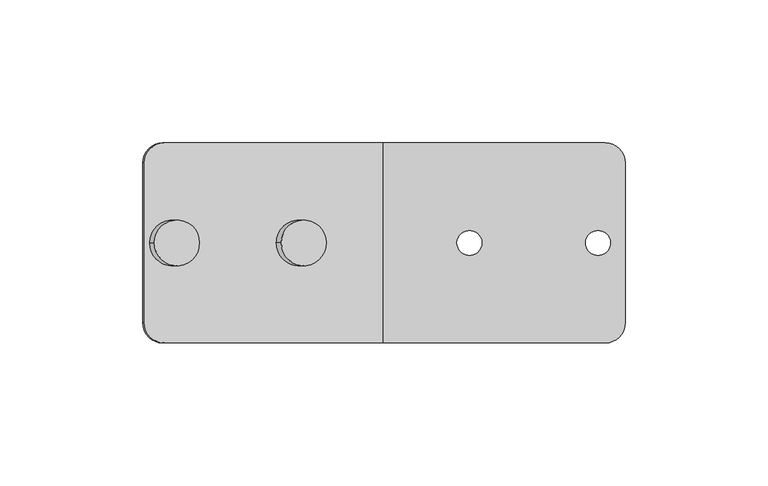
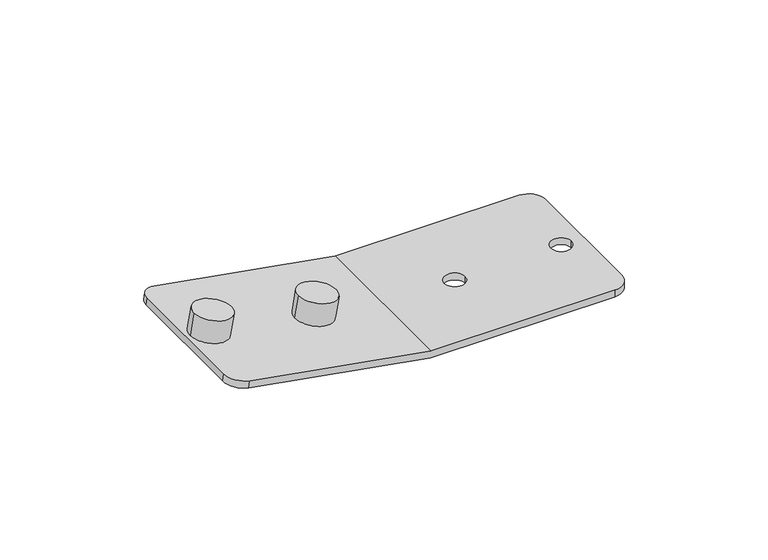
"""IFC4 building model written with IfcOpenShell, lengths in millimetres: proxy geometry, d&b xS-Series 44S Cluster Bracket : 44S Cluster Bracket."""

from ifc_helpers import new_model, si_unit, point, frame, frame_2d, origin, place, context, project, spatial, polyline, circle_curve, trimmed, segment, composite_curve, outline, extrude, source, transform, mapped, element, save
from ifc_brep_helpers import plane_surface, cylinder_surface, revolved_surface, advanced_brep


def communication_devices_e0120213(model_context):
    return source(origin(), model_context, "Body", "SolidModel", [
        extrude(outline(composite_curve([segment(trimmed(circle_curve(frame_2d((0.0, -8.0)), 8.0), [point((0.0, -16.0))], [point((0.0, 0.0))], False, "CARTESIAN"), True, "CONTINUOUS"), segment(trimmed(circle_curve(frame_2d((0.0, -8.0)), 8.0), [point((0.0, 0.0))], [point((0.0, -16.0))], False, "CARTESIAN"), True, "CONTINUOUS")], self_intersect=False)), frame((-118.6256897, 0.0, 14.6125754), z_axis=(0.17364817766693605, 0.0, 0.9848077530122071), x_axis=(0.0, -1.0, 0.0)), (0.0, 0.0, 1.0), 9.6),
        extrude(outline(composite_curve([segment(trimmed(circle_curve(frame_2d((0.0, 37.0120911)), 8.0), [point((0.0, 45.0120912))], [point((0.0, 29.0120911))], False, "CARTESIAN"), True, "CONTINUOUS"), segment(trimmed(circle_curve(frame_2d((0.0, 37.0120911)), 8.0), [point((0.0, 29.0120911))], [point((0.0, 45.0120912))], False, "CARTESIAN"), True, "CONTINUOUS")], self_intersect=False)), frame((-118.6256897, 0.0, 14.6125754), z_axis=(0.17364817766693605, 0.0, 0.9848077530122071), x_axis=(0.0, -1.0, 0.0)), (0.0, 0.0, 1.0), 9.6),
        advanced_brep(
        [(-129.8641799, -35.0, 13.5479446), (-136.7578342, -28.0, 14.7634819), (-136.7578342, 28.0, 14.7634819), (-129.8641799, 35.0, 13.5479446), (-53.0299678, 35.0, 0.0), (-53.0299678, -35.0, 0.0), (-78.413601, 0.0, 4.4758194), (-86.9800787, 0.0, 5.9863206), (-131.3083351, 0.0, 13.8025882), (-122.7418574, 0.0, 12.292087), (-129.3432354, 35.0, 16.5023679), (-136.2368896, 28.0, 17.7179051), (-136.2368896, -28.0, 17.7179051), (-129.3432354, -35.0, 16.5023679), (-52.7675018, -35.0, 3.0), (-52.7675018, 35.0, 3.0), (-77.8926565, 0.0, 7.4302427), (-86.4591342, 0.0, 8.9407438), (-130.7873905, 0.0, 16.7570114), (-122.2209128, 0.0, 15.2465103), (24.9895359, -35.0, 0.0), (24.9895359, -35.0, 3.0), (24.9895359, 35.0, 3.0), (24.9895359, 35.0, 0.0), (31.9895359, 28.0, 0.0), (31.9895359, -28.0, 0.0), (-26.8553603, 0.0, 0.0), (-18.1567308, 0.0, 0.0), (26.8553603, 0.0, 0.0), (18.1567308, 0.0, 0.0), (31.9895359, -28.0, 3.0), (31.9895359, 28.0, 3.0), (-26.8553603, 0.0, 3.0), (-18.1567308, 0.0, 3.0), (26.8553603, 0.0, 3.0), (18.1567308, 0.0, 3.0)],
        [
            (0, 1, circle_curve(frame((-129.8641799, -28.0, 13.5479446), z_axis=(-0.17364817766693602, 0.0, -0.984807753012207), x_axis=(0.968958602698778, -0.1786848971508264, -0.17085354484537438)), 7.0)),
            (1, 2),
            (2, 3, circle_curve(frame((-129.8641799, 28.0, 13.5479446), z_axis=(-0.17364817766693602, 0.0, -0.984807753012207), x_axis=(0.968958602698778, -0.1786848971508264, -0.17085354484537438)), 7.0)),
            (3, 4),
            (4, 5),
            (5, 0),
            (6, 7, circle_curve(frame((-82.6968399, 0.0, 5.23107), z_axis=(0.17364817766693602, 0.0, 0.9848077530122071), x_axis=(-0.9848077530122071, 0.0, 0.17364817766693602)), 4.3493147)),
            (7, 6, circle_curve(frame((-82.6968399, 0.0, 5.23107), z_axis=(0.17364817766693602, 0.0, 0.9848077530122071), x_axis=(-0.9848077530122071, 0.0, 0.17364817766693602)), 4.3493147)),
            (8, 9, circle_curve(frame((-127.0250962, 0.0, 13.0473376), z_axis=(0.1736481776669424, 0.0, 0.984807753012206), x_axis=(0.984807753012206, 0.0, -0.1736481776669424)), 4.3493147)),
            (9, 8, circle_curve(frame((-127.0250962, 0.0, 13.0473376), z_axis=(0.1736481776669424, 0.0, 0.984807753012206), x_axis=(0.984807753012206, 0.0, -0.1736481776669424)), 4.3493147)),
            (10, 11, circle_curve(frame((-129.3432354, 28.0, 16.5023679), z_axis=(0.17364817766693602, 0.0, 0.984807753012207), x_axis=(0.968958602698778, -0.1786848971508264, -0.17085354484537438)), 7.0)),
            (11, 12),
            (12, 13, circle_curve(frame((-129.3432354, -28.0, 16.5023679), z_axis=(0.17364817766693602, 0.0, 0.984807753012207), x_axis=(0.968958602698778, -0.1786848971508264, -0.17085354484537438)), 7.0)),
            (13, 14),
            (14, 15),
            (15, 10),
            (16, 17, circle_curve(frame((-82.1758954, 0.0, 8.1854932), z_axis=(-0.17364817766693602, 0.0, -0.9848077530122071), x_axis=(-0.9848077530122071, 0.0, 0.17364817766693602)), 4.3493147)),
            (17, 16, circle_curve(frame((-82.1758954, 0.0, 8.1854932), z_axis=(-0.17364817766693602, 0.0, -0.9848077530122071), x_axis=(-0.9848077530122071, 0.0, 0.17364817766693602)), 4.3493147)),
            (18, 19, circle_curve(frame((-126.5041517, 0.0, 16.0017608), z_axis=(-0.1736481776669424, 0.0, -0.984807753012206), x_axis=(0.984807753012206, 0.0, -0.1736481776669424)), 4.3493147)),
            (19, 18, circle_curve(frame((-126.5041517, 0.0, 16.0017608), z_axis=(-0.1736481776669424, 0.0, -0.984807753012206), x_axis=(0.984807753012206, 0.0, -0.1736481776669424)), 4.3493147)),
            (13, 0),
            (5, 20),
            (20, 21),
            (21, 14),
            (12, 1),
            (11, 2),
            (10, 3),
            (15, 22),
            (22, 23),
            (23, 4),
            (6, 16),
            (17, 7),
            (8, 18),
            (19, 9),
            (23, 24, circle_curve(frame((24.9895359, 28.0, 0.0), z_axis=(0.0, 0.0, -1.0), x_axis=(-1.0, 0.0, 0.0)), 7.0)),
            (24, 25),
            (25, 20, circle_curve(frame((24.9895359, -28.0, 0.0), z_axis=(0.0, 0.0, -1.0), x_axis=(-1.0, 0.0, 0.0)), 7.0)),
            (26, 27, circle_curve(frame((-22.5060456, 0.0, 0.0), z_axis=(0.0, 0.0, 1.0), x_axis=(1.0, 0.0, 0.0)), 4.3493147)),
            (27, 26, circle_curve(frame((-22.5060456, 0.0, 0.0), z_axis=(0.0, 0.0, 1.0), x_axis=(1.0, 0.0, 0.0)), 4.3493147)),
            (28, 29, circle_curve(frame((22.5060456, 0.0, 0.0), z_axis=(0.0, 0.0, 1.0), x_axis=(-1.0, 0.0, 0.0)), 4.3493147)),
            (29, 28, circle_curve(frame((22.5060456, 0.0, 0.0), z_axis=(0.0, 0.0, 1.0), x_axis=(-1.0, 0.0, 0.0)), 4.3493147)),
            (21, 30, circle_curve(frame((24.9895359, -28.0, 3.0), z_axis=(0.0, 0.0, 1.0), x_axis=(-1.0, 0.0, 0.0)), 7.0)),
            (30, 31),
            (31, 22, circle_curve(frame((24.9895359, 28.0, 3.0), z_axis=(0.0, 0.0, 1.0), x_axis=(-1.0, 0.0, 0.0)), 7.0)),
            (32, 33, circle_curve(frame((-22.5060456, 0.0, 3.0), z_axis=(0.0, 0.0, -1.0), x_axis=(1.0, 0.0, 0.0)), 4.3493147)),
            (33, 32, circle_curve(frame((-22.5060456, 0.0, 3.0), z_axis=(0.0, 0.0, -1.0), x_axis=(1.0, 0.0, 0.0)), 4.3493147)),
            (34, 35, circle_curve(frame((22.5060456, 0.0, 3.0), z_axis=(0.0, 0.0, -1.0), x_axis=(-1.0, 0.0, 0.0)), 4.3493147)),
            (35, 34, circle_curve(frame((22.5060456, 0.0, 3.0), z_axis=(0.0, 0.0, -1.0), x_axis=(-1.0, 0.0, 0.0)), 4.3493147)),
            (32, 26),
            (27, 33),
            (34, 28),
            (29, 35),
            (25, 30),
            (24, 31),
        ],
        [
            plane_surface(frame((-129.8641799, -35.0, 13.5479446), z_axis=(-0.17364817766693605, 0.0, -0.9848077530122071), x_axis=(-0.9848077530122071, 0.0, 0.17364817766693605))),
            plane_surface(frame((-129.3432354, -35.0, 16.5023679), z_axis=(0.17364817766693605, 0.0, 0.9848077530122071), x_axis=(0.9848077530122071, 0.0, -0.17364817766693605))),
            plane_surface(frame((-62.8972527, -35.0, 1.7398686), z_axis=(0.0, -1.0, 0.0), x_axis=(0.17364817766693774, 0.0, 0.9848077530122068))),
            cylinder_surface(frame((-129.3432354, -28.0, 16.5023679), z_axis=(-0.17364817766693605, 0.0, -0.9848077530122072), x_axis=(0.968958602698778, -0.1786848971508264, -0.17085354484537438)), 7.0),
            plane_surface(frame((-136.7578342, -28.0, 14.7634819), z_axis=(-0.9848077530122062, 0.0, 0.17364817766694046), x_axis=(0.17364817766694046, 0.0, 0.9848077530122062))),
            cylinder_surface(frame((-129.3432354, 28.0, 16.5023679), z_axis=(-0.17364817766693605, 0.0, -0.9848077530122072), x_axis=(0.968958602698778, -0.1786848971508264, -0.17085354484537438)), 7.0),
            plane_surface(frame((-129.8641799, 35.0, 13.5479446), z_axis=(0.0, 1.0000000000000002, 0.0), x_axis=(0.17364817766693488, 0.0, 0.9848077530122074))),
            revolved_surface(polyline([(-86.45913422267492, 0.0, 8.940743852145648), (-86.98007876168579, 0.0, 5.986320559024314)]), (-82.1758954, 0.0, 8.1854932), (0.17364817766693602, 0.0, 0.9848077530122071)),
            revolved_surface(polyline([(-122.22091284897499, 0.0, 15.246510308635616), (-122.74185739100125, 0.0, 12.292086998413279)]), (-126.5041517, 0.0, 16.0017608), (0.1736481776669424, 0.0, 0.984807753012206)),
            plane_surface(frame((-53.0299678, -35.0, 0.0), z_axis=(0.0, 0.0, -1.0), x_axis=(0.0, 1.0, 0.0))),
            plane_surface(frame((-37.7436944, -35.0, 3.0), z_axis=(0.0, 0.0, 1.0), x_axis=(0.0, 1.0, 0.0))),
            revolved_surface(polyline([(-18.1567309, 0.0, 0.0), (-18.1567309, 0.0, 3.0)]), (-22.5060456, 0.0, 0.0), (0.0, 0.0, -1.0)),
            revolved_surface(polyline([(18.1567309, 0.0, 0.0), (18.1567309, 0.0, 3.0)]), (22.5060456, 0.0, 50.0), (0.0, 0.0, -1.0)),
            cylinder_surface(frame((24.9895359, -28.0, 50.0), z_axis=(0.0, 0.0, 1.0), x_axis=(-1.0, 0.0, 0.0)), 7.0),
            plane_surface(frame((31.9895359, -28.0, 3.0), z_axis=(1.0, 0.0, 0.0), x_axis=(0.0, 0.0, -1.0))),
            cylinder_surface(frame((24.9895359, 28.0, 50.0), z_axis=(0.0, 0.0, 1.0), x_axis=(-1.0, 0.0, 0.0)), 7.0),
        ],
        [
            (0, [[1, 2, 3, 4, 5, 6], [7, 8], [9, 10]]),
            (1, [[11, 12, 13, 14, 15, 16], [17, 18], [19, 20]]),
            (2, [[21, -6, 22, 23, 24, -14]]),
            (3, [[-1, -21, -13, 25]]),
            (4, [[-2, -25, -12, 26]]),
            (5, [[-3, -26, -11, 27]]),
            (6, [[-27, -16, 28, 29, 30, -4]]),
            (7, [[-7, 31, -18, 32]]),
            (7, [[-8, -32, -17, -31]]),
            (8, [[-9, 33, -20, 34]]),
            (8, [[-10, -34, -19, -33]]),
            (9, [[-22, -5, -30, 35, 36, 37], [38, 39], [40, 41]]),
            (10, [[-24, 42, 43, 44, -28, -15], [45, 46], [47, 48]]),
            (11, [[-45, 49, -39, 50]]),
            (11, [[-46, -50, -38, -49]]),
            (12, [[-47, 51, -41, 52]]),
            (12, [[-48, -52, -40, -51]]),
            (13, [[-42, -23, -37, 53]]),
            (14, [[-43, -53, -36, 54]]),
            (15, [[-44, -54, -35, -29]]),
        ],
    ),
    ])


if __name__ == "__main__":
    model = new_model("IFC4")
    model_context = context("Model", 3, world=origin())
    ifc_project = project(units=[si_unit("LENGTHUNIT", "METRE", prefix="MILLI")], contexts=[model_context])
    site = spatial("IfcSite", under=ifc_project)
    building = spatial("IfcBuilding", under=site)
    placement = place(None, origin())
    communication_devices_shape = communication_devices_e0120213(model_context)
    element("IfcBuildingElementProxy", 1, Name="d&b xS-Series 44S Cluster Bracket : 44S Cluster Bracket", ObjectType="d&b xS-Series 44S Cluster Bracket : 44S Cluster Bracket", at=placement, inside=building, context=model_context, shape_type="MappedRepresentation", body=[
        mapped(communication_devices_shape, transform((0.0, 0.0, 0.0), x_axis=(1.0, 0.0, 0.0), y_axis=(0.0, 1.0, 0.0), z_axis=(0.0, 0.0, 1.0))),
    ])
    save(model, "model.ifc")
